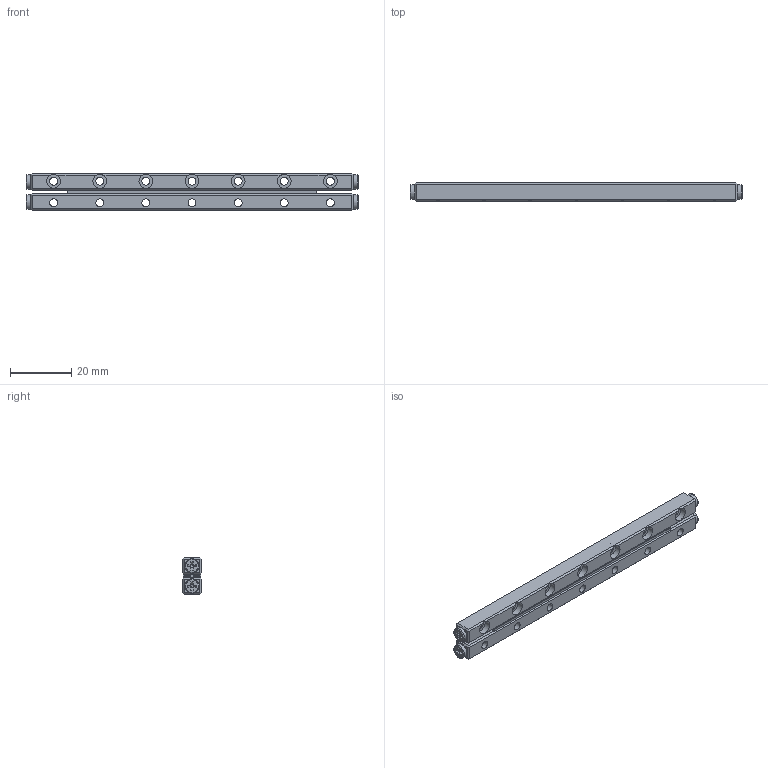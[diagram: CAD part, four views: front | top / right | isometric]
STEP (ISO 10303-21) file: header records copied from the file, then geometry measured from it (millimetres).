
FILE_DESCRIPTION (( 'STEP AP203' ), '1' );
FILE_NAME ('組合件-軌道組-GRG02-0105-14Z-模糊化軌道組.STEP', '2022-11-28T05:11:00', ( '' ), ( '' ), 'SwSTEP 2.0', 'SolidWorks 2019', '' );
FILE_SCHEMA (( 'CONFIG_CONTROL_DESIGN' ));
Length unit declared in the file: millimetre
Products named in the file (1): 組合件-軌道組-GRG02-0105-14Z-模糊化軌道組
Bounding box: 108 x 6 x 12 mm (x, y, z)
Volume: 6345.3 mm3; surface area: 7093.2 mm2
Topology: 3 solids, 7 shells, 668 faces, 1838 edges, 1180 vertices
Faces by surface type: plane 462, cylinder 98, torus 68, cone 40
Full cylindrical faces by diameter (mm): 2.1 x4, 2.6 x14, 4.5 x14, 4.7 x4
Entity records: 21053 total; most frequent: CARTESIAN_POINT 5373, ORIENTED_EDGE 3504, DIRECTION 3016, EDGE_CURVE 1752, VERTEX_POINT 1146, AXIS2_PLACEMENT_3D 1085, VECTOR 846, LINE 846
